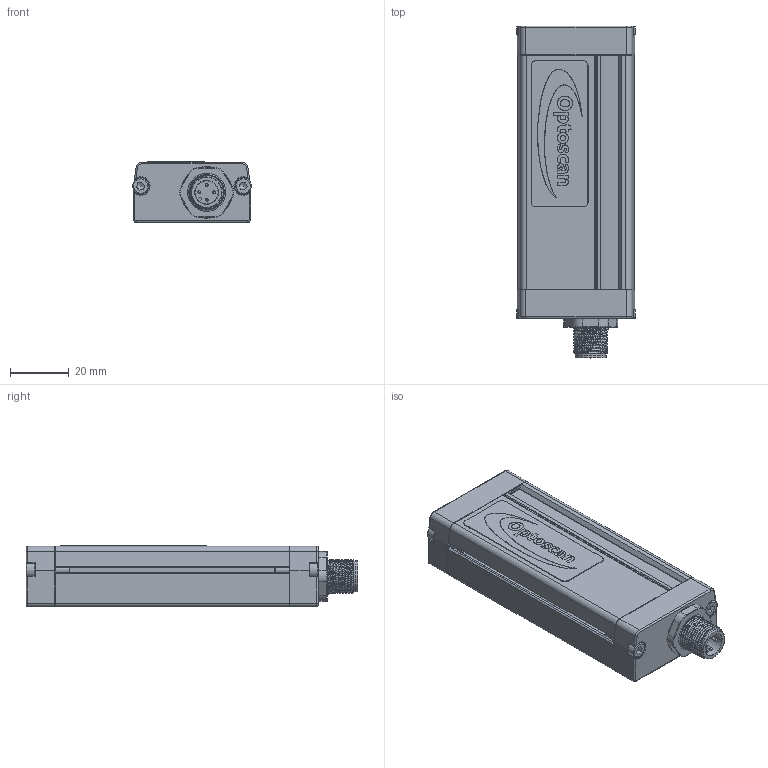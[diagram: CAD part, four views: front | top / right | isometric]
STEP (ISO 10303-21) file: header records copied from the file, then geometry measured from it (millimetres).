
FILE_DESCRIPTION(/* description */ (''),/* implementation_level */ '2;1');
FILE_NAME(/* name */ 'C:\Users\andre\SynologyDrive\Optoscan\Libreria Componenti\00 - Barriere\Barriera sorgente\Argo_80_RX.stp',/* time_stamp */ '2021-04-22T11:50:18+02:00',/* author */ ('andre'),/* organization */ (''),/* preprocessor_version */ 'ST-DEVELOPER v18',/* originating_system */ 'Autodesk Inventor 2020',/* authorisation */ '');
FILE_SCHEMA (('AUTOMOTIVE_DESIGN { 1 0 10303 214 3 1 1 }'));
Length unit declared in the file: millimetre
Products named in the file (1): Argo_80_RX
Bounding box: 40.5 x 113.3 x 20.75 mm (x, y, z)
Volume: 27099.5 mm3; surface area: 29927.7 mm2
Topology: 1 solids, 1 shells, 692 faces, 1898 edges, 1217 vertices
Faces by surface type: plane 319, cylinder 195, bspline 94, torus 70, cone 8, sphere 6
Full cylindrical faces by diameter (mm): 1 x4, 2.459 x4, 2.5 x4, 3 x4, 3.5 x4, 5.5 x4, 8 x1, 10.5 x2, 11.75 x9, 15.7 x1, 17.5 x1
Entity records: 28165 total; most frequent: CARTESIAN_POINT 10195, ORIENTED_EDGE 3778, DIRECTION 3387, EDGE_CURVE 1889, VERTEX_POINT 1217, AXIS2_PLACEMENT_3D 1183, LINE 1021, VECTOR 1021
